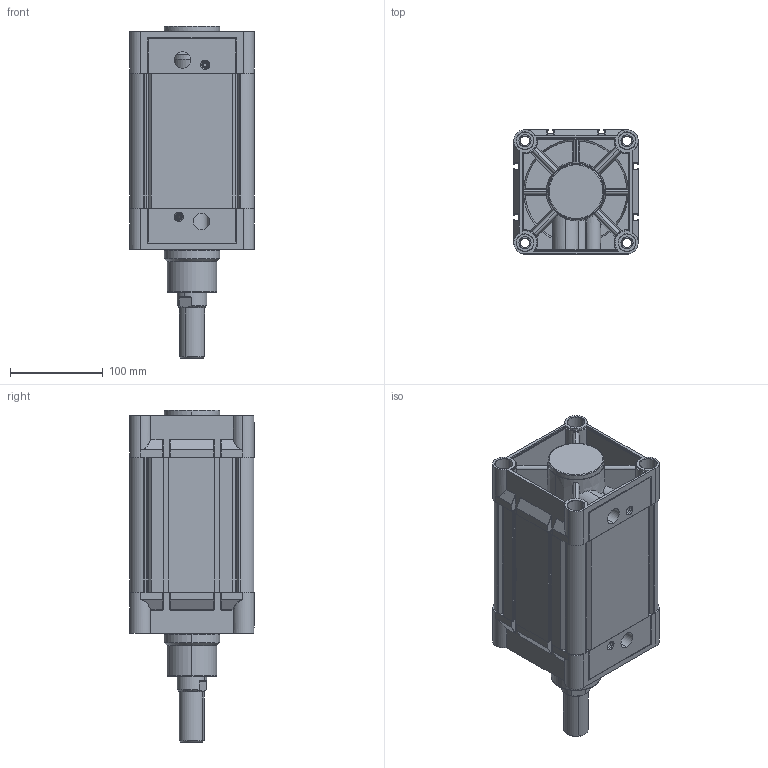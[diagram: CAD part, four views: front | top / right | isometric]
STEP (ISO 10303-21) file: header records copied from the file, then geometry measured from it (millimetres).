
FILE_DESCRIPTION (( 'STEP AP203' ), '1' );
FILE_NAME ('KDNC125X75CYLINDER.STEP', '2015-03-04T14:06:50', ( 'user' ), ( '' ), 'SwSTEP 2.0', 'SolidWorks 2013', '' );
FILE_SCHEMA (( 'CONFIG_CONTROL_DESIGN' ));
Length unit declared in the file: millimetre
Products named in the file (6): ORTA PÝSTON 125; 烰 KAPAK  125; KDNC 125x75 BORU; Piston Mili 125x75; KDNC125X75CYLINDER; ARKA KAPAK  125
Assembly tree (5 placements, depth 2):
  KDNC125X75CYLINDER
    ARKA KAPAK  125
    ORTA PÝSTON 125
    烰 KAPAK  125
    KDNC 125x75 BORU
    Piston Mili 125x75
Bounding box: 134 x 134.3 x 358 mm (x, y, z)
Volume: 2106885.6 mm3; surface area: 542809.8 mm2
Topology: 6 solids, 6 shells, 1076 faces, 2748 edges, 1725 vertices
Faces by surface type: cylinder 419, plane 383, cone 162, bspline 111, torus 1
Entity records: 44458 total; most frequent: CARTESIAN_POINT 19262, ORIENTED_EDGE 5472, DIRECTION 4626, EDGE_CURVE 2736, VERTEX_POINT 1725, AXIS2_PLACEMENT_3D 1693, VECTOR 1240, LINE 1240
